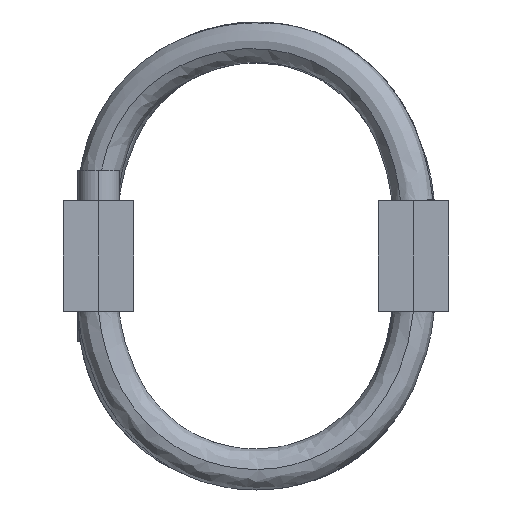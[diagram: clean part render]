
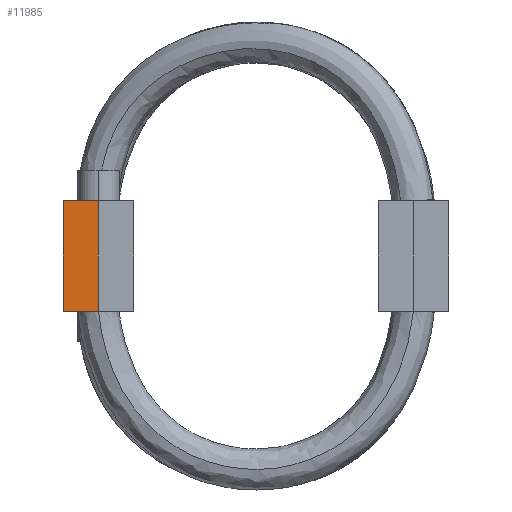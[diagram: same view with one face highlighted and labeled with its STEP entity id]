
A CAD part, left-side view. The second image highlights one B-rep face of the part: STEP entity #11985.
In plain terms, the highlighted planar face has unit normal (-1, 0, 0).
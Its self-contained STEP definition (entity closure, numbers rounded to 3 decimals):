
#192 = VECTOR ( 'NONE', #1643, 1000. ) ;
#275 = EDGE_CURVE ( 'NONE', #34426, #26884, #20573, .T. ) ;
#1314 = LINE ( 'NONE', #24669, #28737 ) ;
#1643 = DIRECTION ( 'NONE',  ( 0., -1., 0. ) ) ;
#1921 = CARTESIAN_POINT ( 'NONE',  ( -107.95, 44.5, 12.7 ) ) ;
#2080 = CARTESIAN_POINT ( 'NONE',  ( -107.95, 44.5, -12.7 ) ) ;
#2689 = EDGE_LOOP ( 'NONE', ( #3955, #29534, #26148, #9074 ) ) ;
#3955 = ORIENTED_EDGE ( 'NONE', *, *, #275, .F. ) ;
#4414 = CARTESIAN_POINT ( 'NONE',  ( -107.95, 44.5, -12.7 ) ) ;
#5316 = CARTESIAN_POINT ( 'NONE',  ( -107.95, 36.35, -12.7 ) ) ;
#7229 = PLANE ( 'NONE',  #15766 ) ;
#7522 = LINE ( 'NONE', #13079, #27860 ) ;
#9074 = ORIENTED_EDGE ( 'NONE', *, *, #21228, .F. ) ;
#9899 = DIRECTION ( 'NONE',  ( 0., 0., 1. ) ) ;
#11915 = FACE_OUTER_BOUND ( 'NONE', #2689, .T. ) ;
#11985 = ADVANCED_FACE ( 'NONE', ( #11915 ), #7229, .T. ) ;
#12777 = VERTEX_POINT ( 'NONE', #4414 ) ;
#13079 = CARTESIAN_POINT ( 'NONE',  ( -107.95, 36.35, -12.7 ) ) ;
#13297 = DIRECTION ( 'NONE',  ( 0., 0., -1. ) ) ;
#15766 = AXIS2_PLACEMENT_3D ( 'NONE', #20471, #25802, #9899 ) ;
#20471 = CARTESIAN_POINT ( 'NONE',  ( -107.95, 40.425, 0. ) ) ;
#20573 = LINE ( 'NONE', #1921, #192 ) ;
#21228 = EDGE_CURVE ( 'NONE', #26884, #22325, #7522, .T. ) ;
#21441 = EDGE_CURVE ( 'NONE', #12777, #34426, #1314, .T. ) ;
#21572 = CARTESIAN_POINT ( 'NONE',  ( -107.95, 36.35, 12.7 ) ) ;
#22257 = CARTESIAN_POINT ( 'NONE',  ( -107.95, 44.5, 12.7 ) ) ;
#22325 = VERTEX_POINT ( 'NONE', #5316 ) ;
#24669 = CARTESIAN_POINT ( 'NONE',  ( -107.95, 44.5, -12.7 ) ) ;
#25373 = VECTOR ( 'NONE', #28655, 1000. ) ;
#25802 = DIRECTION ( 'NONE',  ( -1., 0., 0. ) ) ;
#26148 = ORIENTED_EDGE ( 'NONE', *, *, #31286, .F. ) ;
#26884 = VERTEX_POINT ( 'NONE', #21572 ) ;
#27663 = DIRECTION ( 'NONE',  ( 0., 0., 1. ) ) ;
#27860 = VECTOR ( 'NONE', #13297, 1000. ) ;
#28655 = DIRECTION ( 'NONE',  ( 0., 1., 0. ) ) ;
#28737 = VECTOR ( 'NONE', #27663, 1000. ) ;
#29534 = ORIENTED_EDGE ( 'NONE', *, *, #21441, .F. ) ;
#31286 = EDGE_CURVE ( 'NONE', #22325, #12777, #32405, .T. ) ;
#32405 = LINE ( 'NONE', #2080, #25373 ) ;
#34426 = VERTEX_POINT ( 'NONE', #22257 ) ;
